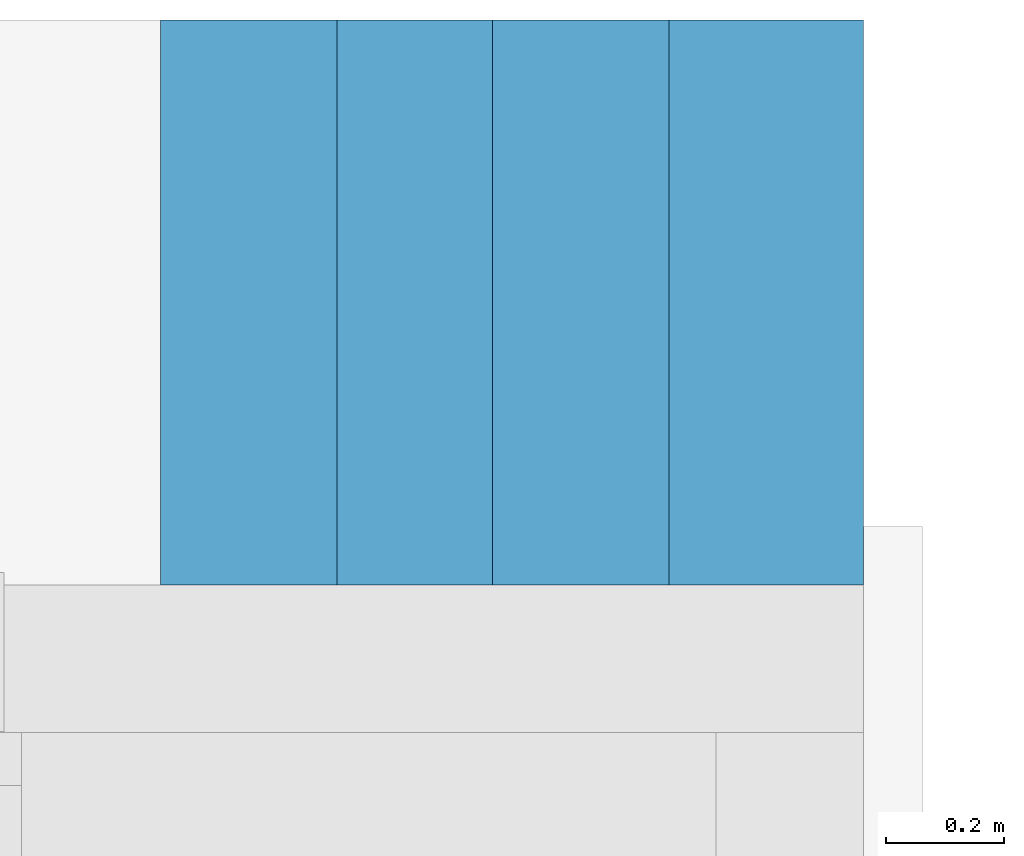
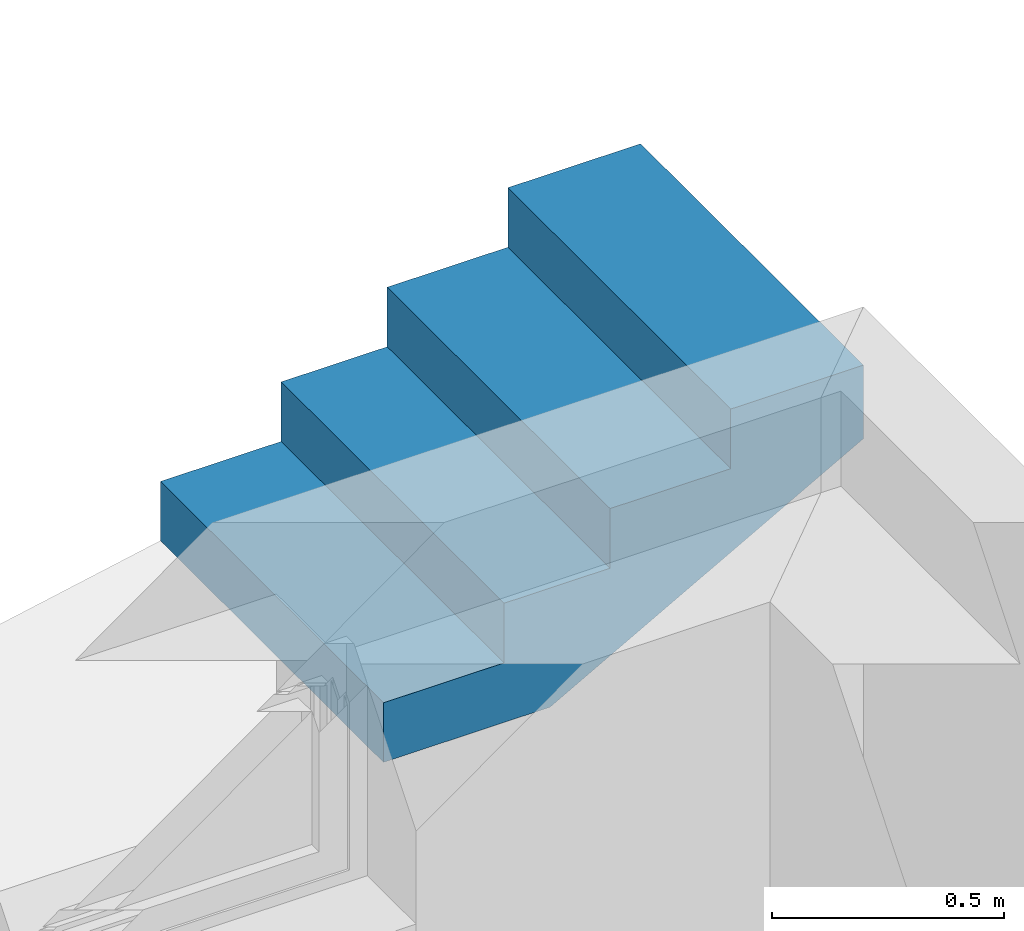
# One storey, part 16 of 22: 1 stair flight, 1 element without a shape of its own.
"""IFC2X3 building model written with IfcOpenShell, lengths in metres."""

from ifc_helpers import new_model, entity, si_unit, converted_unit, derived_unit, direction, frame, origin, place, context, subcontext, project, spatial, faceted_brep, material, type_object, element, aggregate, save


model = new_model("IFC2X3")

# Units and contexts
model_context = context("Model", 3, precision=1e-05, world=origin(), true_north=direction((6.123233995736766e-17, 1.0)))
body_context = subcontext(model_context, "Body", "Model", "MODEL_VIEW")
ifc_project = project(units=[si_unit("LENGTHUNIT", "METRE"), si_unit("AREAUNIT", "SQUARE_METRE"), si_unit("VOLUMEUNIT", "CUBIC_METRE"), si_unit("POWERUNIT", "WATT"), derived_unit("USERDEFINED", [(si_unit("MASSUNIT", "GRAM", prefix="KILO"), 1), (si_unit("TIMEUNIT", "SECOND"), -3)]), derived_unit("THERMALRESISTANCEUNIT", [(si_unit("MASSUNIT", "GRAM", prefix="KILO"), -1), (si_unit("TIMEUNIT", "SECOND"), 3), (si_unit("THERMODYNAMICTEMPERATUREUNIT", "KELVIN"), 1)]), derived_unit("USERDEFINED", [(si_unit("MASSUNIT", "GRAM", prefix="KILO"), 1), (si_unit("TIMEUNIT", "SECOND"), -2), (si_unit("THERMODYNAMICTEMPERATUREUNIT", "KELVIN"), -1)]), derived_unit("THERMALTRANSMITTANCEUNIT", [(si_unit("MASSUNIT", "GRAM", prefix="KILO"), 1), (si_unit("TIMEUNIT", "SECOND"), -3), (si_unit("THERMODYNAMICTEMPERATUREUNIT", "KELVIN"), -1)]), converted_unit("PLANEANGLEUNIT", "DEGREE", entity("IfcPlaneAngleMeasure", 0.017453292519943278), si_unit("PLANEANGLEUNIT", "RADIAN"), dimensions=[0, 0, 0, 0, 0, 0, 0]), derived_unit("MOMENTOFINERTIAUNIT", [(si_unit("LENGTHUNIT", "METRE"), 4)])], contexts=[model_context])

# Site, building, storey
site_placement = place(None, origin())
site = spatial("IfcSite", under=ifc_project, at=site_placement, Name="Default", CompositionType="ELEMENT")
building_placement = place(site_placement, origin())
building = spatial("IfcBuilding", under=site, at=building_placement, CompositionType="ELEMENT")
storey_placement = place(building_placement, origin())
storey = spatial("IfcBuildingStorey", under=building, at=storey_placement, Name="Untergeschoss", CompositionType="ELEMENT", Elevation=0.0)

# Stair, stair flight
type_product = type_object("IfcTypeProduct", Name="Betonfertigteil-Treppe:Fertigbetontreppe - 1 Stockwerkstrennlinie")
stair_placement = place(storey_placement, origin())
stair = element("IfcStair", 1, at=stair_placement, inside=storey, type_object=type_product, Name="Betonfertigteil-Treppe:Treppe", ObjectType="Betonfertigteil-Treppe:Fertigbetontreppe - 1 Stockwerkstrennlinie", ShapeType="STRAIGHT_RUN_STAIR")
ifc_material = material(Name="Betonfertigteil - mit Dämmeigenschaften")
stair_flight_type = type_object("IfcStairFlightType", Name="Massivtreppenlauf:Naturstein - Auftritt 40 / Trittüberstand 30", PredefinedType="NOTDEFINED")
stair_flight_placement = place(stair_placement, frame((37.43299423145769, 28.59227237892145, 0.0)))
stair_flight = element("IfcStairFlight", 2, at=stair_flight_placement, type_object=stair_flight_type, material=ifc_material, Name="Betonfertigteil-Treppe:Treppe:2710850 Run 1", ObjectType="Massivtreppenlauf:Naturstein - Auftritt 40 / Trittüberstand 30", NumberOfRiser=5, NumberOfTreads=4, RiserHeight=0.5138935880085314, TreadLength=1.0555461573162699, context=body_context, shape_type="Brep", body=[
    faceted_brep([(0.30000000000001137, 0.960000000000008, 1.9766957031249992), (0.0, 0.960000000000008, 1.9766957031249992), (0.0, 0.0, 1.9766957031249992), (0.30000000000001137, 0.0, 1.9766957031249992), (0.30000000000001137, 0.960000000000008, 1.820060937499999), (0.0, 0.960000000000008, 1.820060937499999), (0.0, 0.0, 1.820060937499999), (0.30000000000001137, 0.0, 1.820060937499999), (0.30000000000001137, 0.960000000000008, 2.1333304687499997), (0.30000000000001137, 0.0, 2.1333304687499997), (0.34989408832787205, 0.0, 2.1333304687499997), (0.5637257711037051, 0.0, 2.1333304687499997), (0.5637257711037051, 0.960000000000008, 2.1333304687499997), (0.34989408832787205, 0.960000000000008, 2.1333304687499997), (0.5637257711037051, 0.960000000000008, 1.9030246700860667), (0.4144332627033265, 0.960000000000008, 1.820060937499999), (0.34989408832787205, 0.960000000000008, 1.820060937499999), (0.34989408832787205, 0.0, 1.820060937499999), (0.4144332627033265, 0.0, 1.8200609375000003), (0.5637257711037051, 0.0, 1.9030246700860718), (0.8637257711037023, 0.9600000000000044, 2.2899652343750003), (0.5637257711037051, 0.960000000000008, 2.2899652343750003), (0.5637257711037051, 0.0, 2.2899652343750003), (0.8637257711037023, 0.0, 2.2899652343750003), (0.8637257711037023, 0.9600000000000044, 2.0697384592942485), (0.8637257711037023, 0.0, 2.0697384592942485), (1.1937257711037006, 0.9600000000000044, 2.4466000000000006), (0.8637257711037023, 0.9600000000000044, 2.4466000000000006), (0.8637257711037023, 0.0, 2.4466000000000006), (1.1937257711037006, 0.0, 2.4466000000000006), (1.1937257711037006, 0.9600000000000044, 2.2531236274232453), (1.1937257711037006, 0.0, 2.253123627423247)], [[[0, 1, 2, 3]], [[1, 0, 4, 5]], [[2, 1, 5, 6]], [[3, 2, 6, 7]], [[8, 9, 10, 11, 12, 13]], [[4, 0, 8, 13, 12, 14, 15, 16]], [[0, 3, 9, 8]], [[3, 7, 17, 18, 19, 11, 10, 9]], [[20, 21, 22, 23]], [[21, 20, 24, 14, 12]], [[12, 11, 22, 21]], [[23, 22, 11, 19, 25]], [[26, 27, 28, 29]], [[27, 26, 30, 24, 20]], [[20, 23, 28, 27]], [[29, 28, 23, 25, 31]], [[26, 29, 31, 30]], [[5, 4, 16, 15, 18, 17, 7, 6]], [[18, 15, 14, 24, 30, 31, 25, 19]]]),
])
aggregate(stair, [stair_flight])

save(model, "model.ifc")
